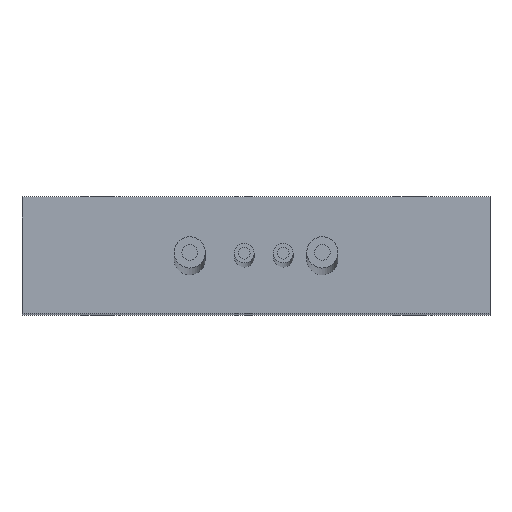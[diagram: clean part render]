
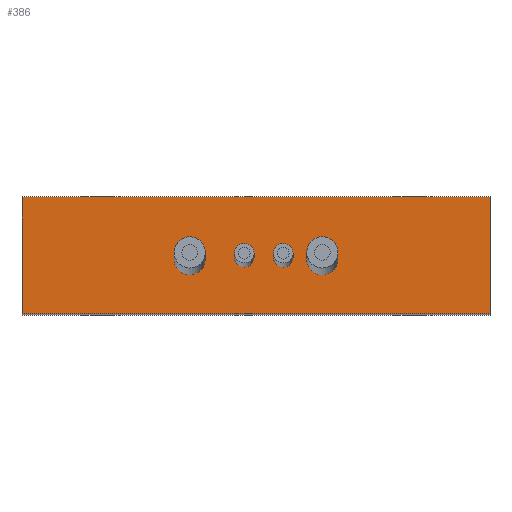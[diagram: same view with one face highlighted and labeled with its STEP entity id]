
A CAD part, top view. The second image highlights one B-rep face of the part: STEP entity #386.
In plain terms, the highlighted planar face has unit normal (0, 0, 1).
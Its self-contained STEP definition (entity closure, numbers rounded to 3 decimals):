
#13=LINE($,#608,#25);
#16=LINE($,#622,#28);
#19=LINE($,#628,#31);
#22=LINE($,#641,#34);
#25=VECTOR($,#509,15.);
#28=VECTOR($,#522,60.);
#31=VECTOR($,#527,15.);
#34=VECTOR($,#540,60.);
#49=PLANE($,#439);
#80=FACE_BOUND($,#153,.T.);
#81=FACE_BOUND($,#154,.T.);
#82=FACE_BOUND($,#155,.T.);
#83=FACE_BOUND($,#156,.T.);
#84=FACE_BOUND($,#157,.T.);
#153=EDGE_LOOP($,(#314));
#154=EDGE_LOOP($,(#315));
#155=EDGE_LOOP($,(#316));
#156=EDGE_LOOP($,(#317));
#157=EDGE_LOOP($,(#318,#319,#320,#321));
#161=CIRCLE($,#396,1.25);
#165=CIRCLE($,#404,1.25);
#169=CIRCLE($,#412,2.);
#173=CIRCLE($,#420,2.);
#185=VERTEX_POINT($,#564);
#189=VERTEX_POINT($,#576);
#193=VERTEX_POINT($,#588);
#197=VERTEX_POINT($,#600);
#198=VERTEX_POINT($,#604);
#200=VERTEX_POINT($,#607);
#206=VERTEX_POINT($,#621);
#208=VERTEX_POINT($,#627);
#217=EDGE_CURVE($,#185,#185,#161,.T.);
#221=EDGE_CURVE($,#189,#189,#165,.T.);
#225=EDGE_CURVE($,#193,#193,#169,.T.);
#229=EDGE_CURVE($,#197,#197,#173,.T.);
#231=EDGE_CURVE($,#200,#198,#13,.T.);
#238=EDGE_CURVE($,#206,#200,#16,.T.);
#241=EDGE_CURVE($,#208,#206,#19,.T.);
#248=EDGE_CURVE($,#198,#208,#22,.T.);
#314=ORIENTED_EDGE($,*,*,#217,.T.);
#315=ORIENTED_EDGE($,*,*,#221,.T.);
#316=ORIENTED_EDGE($,*,*,#225,.T.);
#317=ORIENTED_EDGE($,*,*,#229,.T.);
#318=ORIENTED_EDGE($,*,*,#248,.T.);
#319=ORIENTED_EDGE($,*,*,#241,.T.);
#320=ORIENTED_EDGE($,*,*,#238,.T.);
#321=ORIENTED_EDGE($,*,*,#231,.T.);
#386=ADVANCED_FACE($,(#80,#81,#82,#83,#84),#49,.T.);
#396=AXIS2_PLACEMENT_3D($,#565,#454,#455);
#404=AXIS2_PLACEMENT_3D($,#577,#470,#471);
#412=AXIS2_PLACEMENT_3D($,#589,#486,#487);
#420=AXIS2_PLACEMENT_3D($,#601,#502,#503);
#439=AXIS2_PLACEMENT_3D($,#648,#552,#553);
#454=DIRECTION('center_axis',(0.,0.,
-1.));
#455=DIRECTION('ref_axis',(-1.,0.,0.));
#470=DIRECTION('center_axis',(0.,0.,
-1.));
#471=DIRECTION('ref_axis',(-1.,0.,0.));
#486=DIRECTION('center_axis',(0.,0.,
-1.));
#487=DIRECTION('ref_axis',(-0.66,-0.751,0.));
#502=DIRECTION('center_axis',(0.,0.,
-1.));
#503=DIRECTION('ref_axis',(-0.66,-0.751,0.));
#509=DIRECTION($,(0.,1.,0.));
#522=DIRECTION($,(1.,0.,0.));
#527=DIRECTION($,(0.,-1.,0.));
#540=DIRECTION($,(-1.,0.,0.));
#552=DIRECTION('center_axis',(0.,0.,
1.));
#553=DIRECTION('ref_axis',(1.,0.,0.));
#564=CARTESIAN_POINT('',(52.579,13.328,76.404));
#565=CARTESIAN_POINT('Origin',(51.329,13.328,76.404));
#576=CARTESIAN_POINT('',(57.579,13.328,76.404));
#577=CARTESIAN_POINT('Origin',(56.329,13.328,76.404));
#588=CARTESIAN_POINT('',(45.644,14.58,76.404));
#589=CARTESIAN_POINT('Origin',(44.323,13.078,76.404));
#600=CARTESIAN_POINT('',(62.644,14.58,76.404));
#601=CARTESIAN_POINT('Origin',(61.323,13.078,76.404));
#604=CARTESIAN_POINT('',(82.823,21.078,76.404));
#607=CARTESIAN_POINT('',(82.823,6.078,76.404));
#608=CARTESIAN_POINT($,(82.823,21.078,76.404));
#621=CARTESIAN_POINT('',(22.823,6.078,76.404));
#622=CARTESIAN_POINT($,(82.823,6.078,76.404));
#627=CARTESIAN_POINT('',(22.823,21.078,76.404));
#628=CARTESIAN_POINT($,(22.823,6.078,76.404));
#641=CARTESIAN_POINT($,(22.823,21.078,76.404));
#648=CARTESIAN_POINT('Origin',(52.823,13.578,76.404));
